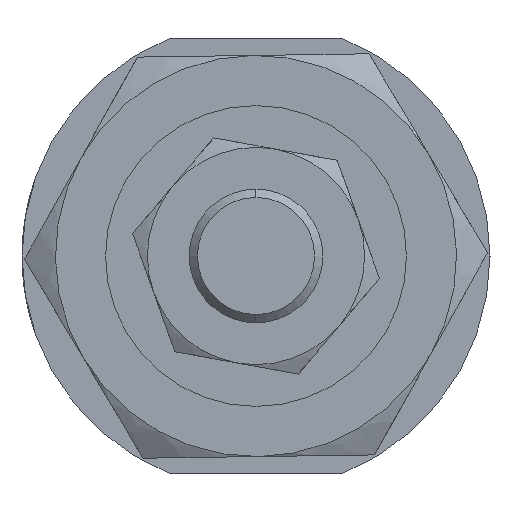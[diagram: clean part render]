
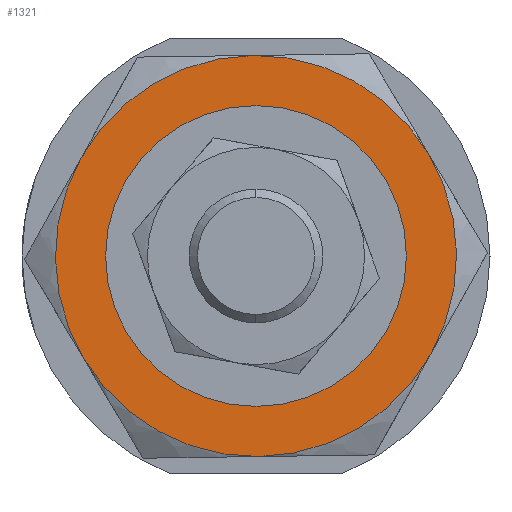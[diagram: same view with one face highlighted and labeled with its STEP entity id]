
A CAD part, left-side view. The second image highlights one B-rep face of the part: STEP entity #1321.
In plain terms, the highlighted planar face has unit normal (-1, 0, 0) as drawn and (0, 0, -1) by its records, which use the part's own axes.
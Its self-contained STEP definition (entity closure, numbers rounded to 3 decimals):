
#54 = CARTESIAN_POINT ( 'NONE',  ( 0., 0., -4. ) ) ;
#127 = DIRECTION ( 'NONE',  ( 0., 0., 1. ) ) ;
#147 = CIRCLE ( 'NONE', #1475, 12. ) ;
#156 = VERTEX_POINT ( 'NONE', #224 ) ;
#165 = EDGE_LOOP ( 'NONE', ( #2652, #226 ) ) ;
#186 = VERTEX_POINT ( 'NONE', #2878 ) ;
#206 = AXIS2_PLACEMENT_3D ( 'NONE', #1371, #1621, #952 ) ;
#224 = CARTESIAN_POINT ( 'NONE',  ( -6., 10.392, -4. ) ) ;
#226 = ORIENTED_EDGE ( 'NONE', *, *, #1276, .T. ) ;
#329 = VERTEX_POINT ( 'NONE', #2554 ) ;
#359 = VERTEX_POINT ( 'NONE', #2776 ) ;
#391 = ORIENTED_EDGE ( 'NONE', *, *, #2185, .F. ) ;
#413 = CARTESIAN_POINT ( 'NONE',  ( 0., 0., -4. ) ) ;
#425 = DIRECTION ( 'NONE',  ( 1., 0., 0. ) ) ;
#473 = DIRECTION ( 'NONE',  ( 0., 0., 1. ) ) ;
#536 = ORIENTED_EDGE ( 'NONE', *, *, #2496, .F. ) ;
#587 = DIRECTION ( 'NONE',  ( 1., 0., 0. ) ) ;
#605 = CARTESIAN_POINT ( 'NONE',  ( 0., 0., -4. ) ) ;
#611 = VERTEX_POINT ( 'NONE', #774 ) ;
#642 = FACE_OUTER_BOUND ( 'NONE', #1094, .T. ) ;
#735 = CARTESIAN_POINT ( 'NONE',  ( 6., 10.392, -4. ) ) ;
#774 = CARTESIAN_POINT ( 'NONE',  ( -6., -10.392, -4. ) ) ;
#810 = AXIS2_PLACEMENT_3D ( 'NONE', #54, #1862, #2082 ) ;
#819 = DIRECTION ( 'NONE',  ( 1., 0., 0. ) ) ;
#836 = CARTESIAN_POINT ( 'NONE',  ( 0., 0., -4. ) ) ;
#873 = EDGE_CURVE ( 'NONE', #1523, #611, #147, .T. ) ;
#917 = AXIS2_PLACEMENT_3D ( 'NONE', #836, #2200, #1501 ) ;
#952 = DIRECTION ( 'NONE',  ( 1., 0., 0. ) ) ;
#1094 = EDGE_LOOP ( 'NONE', ( #2839, #391, #536, #1880, #2685, #1851 ) ) ;
#1107 = CIRCLE ( 'NONE', #810, 8.25 ) ;
#1257 = DIRECTION ( 'NONE',  ( 1., 0., 0. ) ) ;
#1261 = VERTEX_POINT ( 'NONE', #735 ) ;
#1272 = CIRCLE ( 'NONE', #1377, 12. ) ;
#1276 = EDGE_CURVE ( 'NONE', #2773, #329, #1384, .T. ) ;
#1283 = CARTESIAN_POINT ( 'NONE',  ( 0., 0., -4. ) ) ;
#1321 = ADVANCED_FACE ( 'NONE', ( #1449, #642 ), #1409, .F. ) ;
#1371 = CARTESIAN_POINT ( 'NONE',  ( 0., 0., -4. ) ) ;
#1377 = AXIS2_PLACEMENT_3D ( 'NONE', #413, #1793, #425 ) ;
#1384 = CIRCLE ( 'NONE', #2325, 8.25 ) ;
#1409 = PLANE ( 'NONE',  #206 ) ;
#1449 = FACE_BOUND ( 'NONE', #165, .T. ) ;
#1458 = CIRCLE ( 'NONE', #2285, 12. ) ;
#1475 = AXIS2_PLACEMENT_3D ( 'NONE', #2450, #2218, #1257 ) ;
#1501 = DIRECTION ( 'NONE',  ( 1., 0., 0. ) ) ;
#1523 = VERTEX_POINT ( 'NONE', #2605 ) ;
#1621 = DIRECTION ( 'NONE',  ( 0., 0., 1. ) ) ;
#1645 = CIRCLE ( 'NONE', #2021, 12. ) ;
#1705 = CIRCLE ( 'NONE', #1919, 12. ) ;
#1754 = DIRECTION ( 'NONE',  ( 0., 0., 1. ) ) ;
#1793 = DIRECTION ( 'NONE',  ( 0., 0., 1. ) ) ;
#1851 = ORIENTED_EDGE ( 'NONE', *, *, #2390, .F. ) ;
#1853 = EDGE_CURVE ( 'NONE', #329, #2773, #1107, .T. ) ;
#1862 = DIRECTION ( 'NONE',  ( 0., 0., 1. ) ) ;
#1880 = ORIENTED_EDGE ( 'NONE', *, *, #873, .F. ) ;
#1919 = AXIS2_PLACEMENT_3D ( 'NONE', #1283, #2172, #819 ) ;
#1948 = CIRCLE ( 'NONE', #917, 12. ) ;
#1968 = DIRECTION ( 'NONE',  ( 1., 0., 0. ) ) ;
#2016 = EDGE_CURVE ( 'NONE', #359, #1261, #1948, .T. ) ;
#2021 = AXIS2_PLACEMENT_3D ( 'NONE', #605, #1754, #1968 ) ;
#2082 = DIRECTION ( 'NONE',  ( 1., 0., 0. ) ) ;
#2172 = DIRECTION ( 'NONE',  ( 0., 0., 1. ) ) ;
#2185 = EDGE_CURVE ( 'NONE', #186, #359, #1272, .T. ) ;
#2200 = DIRECTION ( 'NONE',  ( 0., 0., 1. ) ) ;
#2218 = DIRECTION ( 'NONE',  ( 0., 0., 1. ) ) ;
#2274 = DIRECTION ( 'NONE',  ( 1., 0., 0. ) ) ;
#2285 = AXIS2_PLACEMENT_3D ( 'NONE', #2641, #127, #587 ) ;
#2325 = AXIS2_PLACEMENT_3D ( 'NONE', #2508, #473, #2274 ) ;
#2370 = EDGE_CURVE ( 'NONE', #156, #1523, #1458, .T. ) ;
#2390 = EDGE_CURVE ( 'NONE', #1261, #156, #1705, .T. ) ;
#2450 = CARTESIAN_POINT ( 'NONE',  ( 0., 0., -4. ) ) ;
#2496 = EDGE_CURVE ( 'NONE', #611, #186, #1645, .T. ) ;
#2508 = CARTESIAN_POINT ( 'NONE',  ( 0., 0., -4. ) ) ;
#2554 = CARTESIAN_POINT ( 'NONE',  ( 8.25, 0., -4. ) ) ;
#2604 = CARTESIAN_POINT ( 'NONE',  ( -8.25, 0., -4. ) ) ;
#2605 = CARTESIAN_POINT ( 'NONE',  ( -12., 0., -4. ) ) ;
#2641 = CARTESIAN_POINT ( 'NONE',  ( 0., 0., -4. ) ) ;
#2652 = ORIENTED_EDGE ( 'NONE', *, *, #1853, .T. ) ;
#2685 = ORIENTED_EDGE ( 'NONE', *, *, #2370, .F. ) ;
#2773 = VERTEX_POINT ( 'NONE', #2604 ) ;
#2776 = CARTESIAN_POINT ( 'NONE',  ( 12., 0., -4. ) ) ;
#2839 = ORIENTED_EDGE ( 'NONE', *, *, #2016, .F. ) ;
#2878 = CARTESIAN_POINT ( 'NONE',  ( 6., -10.392, -4. ) ) ;
